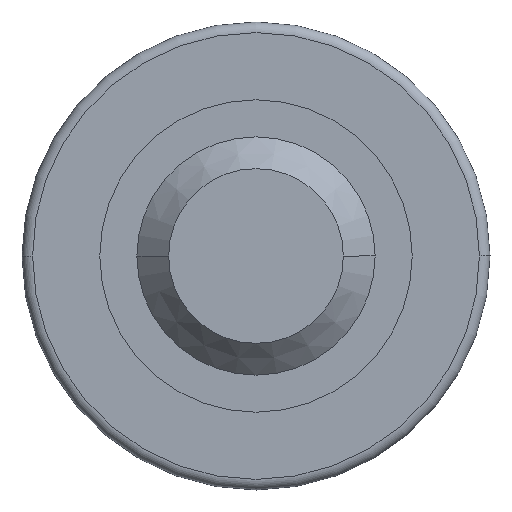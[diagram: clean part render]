
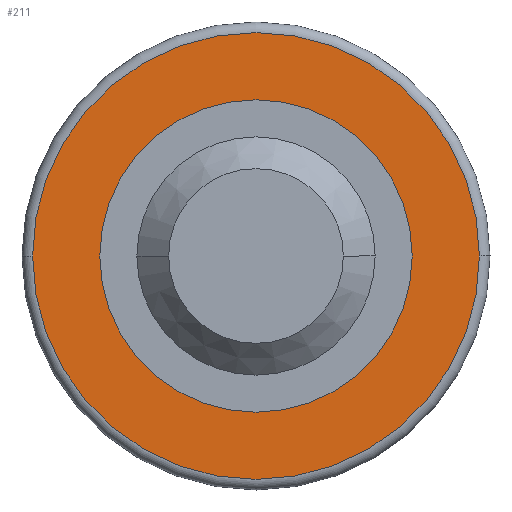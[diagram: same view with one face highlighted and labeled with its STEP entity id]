
A CAD part, left-side view. The second image highlights one B-rep face of the part: STEP entity #211.
In plain terms, the highlighted planar face has unit normal (-1, 0, 0).
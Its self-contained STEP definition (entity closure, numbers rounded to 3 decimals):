
#17 = VERTEX_POINT ( 'NONE', #279 ) ;
#50 = ORIENTED_EDGE ( 'NONE', *, *, #662, .F. ) ;
#65 = ORIENTED_EDGE ( 'NONE', *, *, #672, .T. ) ;
#108 = FACE_BOUND ( 'NONE', #438, .T. ) ;
#109 = FACE_OUTER_BOUND ( 'NONE', #228, .T. ) ;
#110 = PLANE ( 'NONE',  #111 ) ;
#111 = AXIS2_PLACEMENT_3D ( 'NONE', #112, #113, #114 ) ;
#112 = CARTESIAN_POINT ( 'NONE',  ( 15.5, 42.2, 0. ) ) ;
#113 = DIRECTION ( 'NONE',  ( -1., 0., 0. ) ) ;
#114 = DIRECTION ( 'NONE',  ( 0., -1., 0. ) ) ;
#134 = CARTESIAN_POINT ( 'NONE',  ( 15.5, -42.2, 0. ) ) ;
#141 = CIRCLE ( 'NONE', #142, 42.2 ) ;
#142 = AXIS2_PLACEMENT_3D ( 'NONE', #143, #144, #145 ) ;
#143 = CARTESIAN_POINT ( 'NONE',  ( 15.5, 0., 0. ) ) ;
#144 = DIRECTION ( 'NONE',  ( 1., 0., 0. ) ) ;
#145 = DIRECTION ( 'NONE',  ( 0., 1., 0. ) ) ;
#211 = ADVANCED_FACE ( 'NONE', ( #108, #109 ), #110, .T. ) ;
#228 = EDGE_LOOP ( 'NONE', ( #50, #708 ) ) ;
#260 = CARTESIAN_POINT ( 'NONE',  ( 15.5, 42.2, 0. ) ) ;
#265 = VERTEX_POINT ( 'NONE', #134 ) ;
#279 = CARTESIAN_POINT ( 'NONE',  ( 15.5, -29.5, 0. ) ) ;
#300 = EDGE_CURVE ( 'NONE', #265, #474, #141, .T. ) ;
#341 = CIRCLE ( 'NONE', #342, 29.5 ) ;
#342 = AXIS2_PLACEMENT_3D ( 'NONE', #343, #344, #345 ) ;
#343 = CARTESIAN_POINT ( 'NONE',  ( 15.5, 0., 0. ) ) ;
#344 = DIRECTION ( 'NONE',  ( 1., 0., 0. ) ) ;
#345 = DIRECTION ( 'NONE',  ( 0., 1., 0. ) ) ;
#346 = CARTESIAN_POINT ( 'NONE',  ( 15.5, 29.5, 0. ) ) ;
#397 = CIRCLE ( 'NONE', #398, 42.2 ) ;
#398 = AXIS2_PLACEMENT_3D ( 'NONE', #399, #400, #401 ) ;
#399 = CARTESIAN_POINT ( 'NONE',  ( 15.5, 0., 0. ) ) ;
#400 = DIRECTION ( 'NONE',  ( 1., 0., 0. ) ) ;
#401 = DIRECTION ( 'NONE',  ( 0., 1., 0. ) ) ;
#438 = EDGE_LOOP ( 'NONE', ( #65, #684 ) ) ;
#474 = VERTEX_POINT ( 'NONE', #260 ) ;
#495 = CIRCLE ( 'NONE', #496, 29.5 ) ;
#496 = AXIS2_PLACEMENT_3D ( 'NONE', #497, #498, #499 ) ;
#497 = CARTESIAN_POINT ( 'NONE',  ( 15.5, 0., 0. ) ) ;
#498 = DIRECTION ( 'NONE',  ( 1., 0., 0. ) ) ;
#499 = DIRECTION ( 'NONE',  ( 0., 1., 0. ) ) ;
#625 = EDGE_CURVE ( 'NONE', #17, #626, #341, .T. ) ;
#626 = VERTEX_POINT ( 'NONE', #346 ) ;
#662 = EDGE_CURVE ( 'NONE', #474, #265, #397, .T. ) ;
#672 = EDGE_CURVE ( 'NONE', #626, #17, #495, .T. ) ;
#684 = ORIENTED_EDGE ( 'NONE', *, *, #625, .T. ) ;
#708 = ORIENTED_EDGE ( 'NONE', *, *, #300, .F. ) ;
